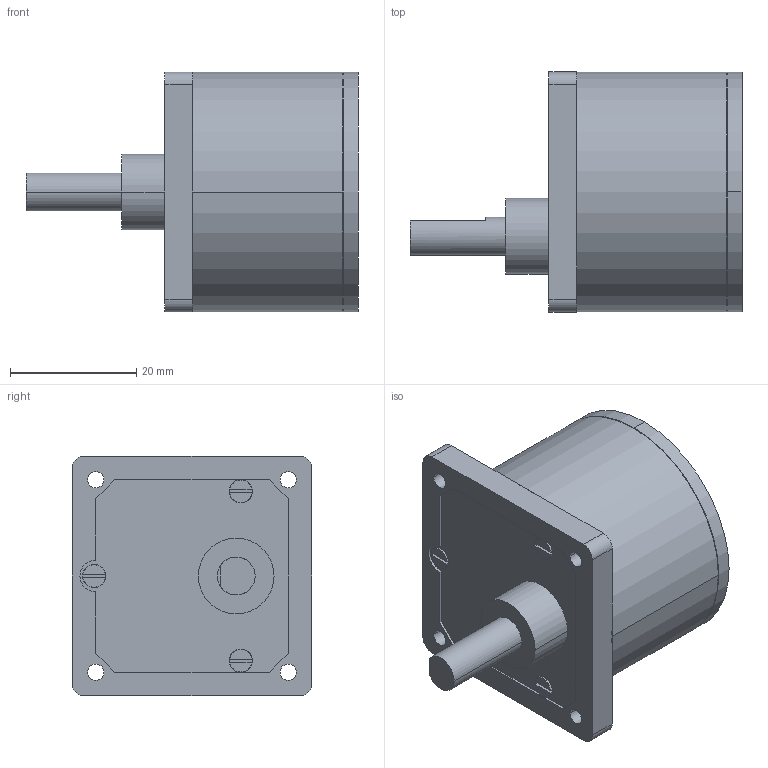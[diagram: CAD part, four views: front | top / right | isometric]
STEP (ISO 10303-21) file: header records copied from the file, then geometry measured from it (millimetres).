
FILE_DESCRIPTION((''),'2;1');
FILE_NAME('GS38','2016-10-06T',('mmagpetk'),(''),'CREO PARAMETRIC BY PTC INC, 2016050','CREO PARAMETRIC BY PTC INC, 2016050','');
FILE_SCHEMA(('CONFIG_CONTROL_DESIGN'));
Length unit declared in the file: millimetre
Products named in the file (1): GS38
Bounding box: 52.6 x 38 x 38 mm (x, y, z)
Volume: 36830.1 mm3; surface area: 7415.2 mm2
Topology: 1 solids, 1 shells, 75 faces, 194 edges, 126 vertices
Faces by surface type: plane 40, cylinder 27, cone 8
Entity records: 3219 total; most frequent: CARTESIAN_POINT 455, DIRECTION 412, ORIENTED_EDGE 388, PRESENTATION_STYLE_ASSIGNMENT 216, STYLED_ITEM 195, CURVE_STYLE 194, EDGE_CURVE 194, AXIS2_PLACEMENT_3D 155
